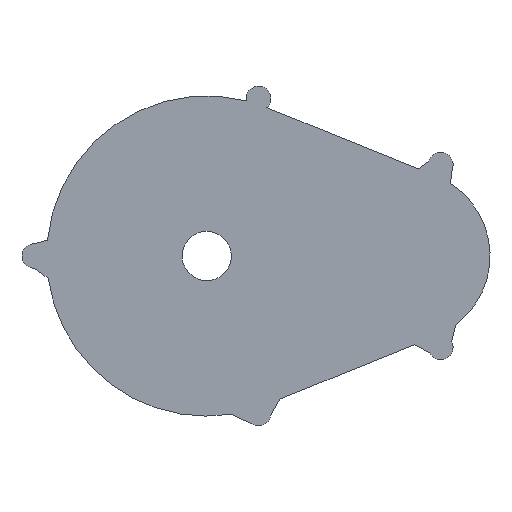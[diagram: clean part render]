
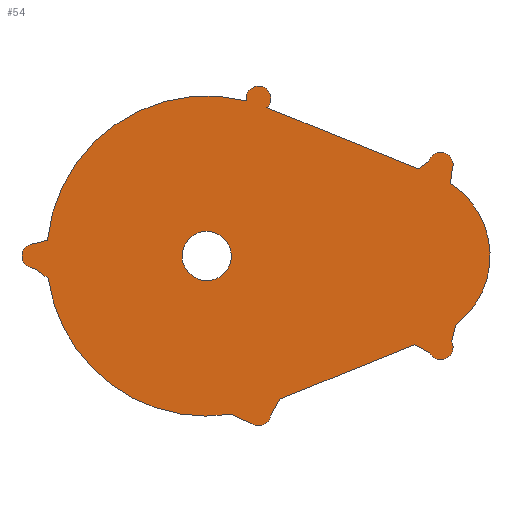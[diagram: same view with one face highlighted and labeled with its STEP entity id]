
A CAD part, front view. The second image highlights one B-rep face of the part: STEP entity #54.
In plain terms, the highlighted planar face has unit normal (0, -1, 0).
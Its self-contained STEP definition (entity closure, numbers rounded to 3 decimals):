
#54=ADVANCED_FACE('',(#103,#105),#107,.T.);
#103=FACE_BOUND('',#104,.T.);
#104=EDGE_LOOP('',(#351,#352,#353,#354,#355,#356,#357,#358,#359,#360,#361,#362,#363,
#364,#365,#366,#367,#368));
#105=FACE_BOUND('',#106,.T.);
#106=EDGE_LOOP('',(#369));
#107=PLANE('',#108);
#108=AXIS2_PLACEMENT_3D('',#109,#110,#111);
#109=CARTESIAN_POINT('',(0.,-73.,0.));
#110=DIRECTION('',(0.,-1.,0.));
#111=DIRECTION('',(0.,0.,-1.));
#351=ORIENTED_EDGE('',*,*,#483,.T.);
#352=ORIENTED_EDGE('',*,*,#484,.T.);
#353=ORIENTED_EDGE('',*,*,#485,.T.);
#354=ORIENTED_EDGE('',*,*,#486,.T.);
#355=ORIENTED_EDGE('',*,*,#487,.T.);
#356=ORIENTED_EDGE('',*,*,#488,.T.);
#357=ORIENTED_EDGE('',*,*,#489,.T.);
#358=ORIENTED_EDGE('',*,*,#490,.T.);
#359=ORIENTED_EDGE('',*,*,#491,.T.);
#360=ORIENTED_EDGE('',*,*,#492,.T.);
#361=ORIENTED_EDGE('',*,*,#493,.T.);
#362=ORIENTED_EDGE('',*,*,#494,.T.);
#363=ORIENTED_EDGE('',*,*,#495,.T.);
#364=ORIENTED_EDGE('',*,*,#496,.T.);
#365=ORIENTED_EDGE('',*,*,#497,.T.);
#366=ORIENTED_EDGE('',*,*,#498,.T.);
#367=ORIENTED_EDGE('',*,*,#499,.T.);
#368=ORIENTED_EDGE('',*,*,#500,.T.);
#369=ORIENTED_EDGE('',*,*,#501,.T.);
#483=EDGE_CURVE('',#573,#574,#575,.T.);
#484=EDGE_CURVE('',#574,#576,#577,.T.);
#485=EDGE_CURVE('',#576,#578,#579,.T.);
#486=EDGE_CURVE('',#578,#580,#581,.T.);
#487=EDGE_CURVE('',#580,#582,#583,.T.);
#488=EDGE_CURVE('',#582,#584,#585,.T.);
#489=EDGE_CURVE('',#584,#586,#587,.T.);
#490=EDGE_CURVE('',#586,#588,#589,.T.);
#491=EDGE_CURVE('',#588,#590,#591,.T.);
#492=EDGE_CURVE('',#590,#592,#593,.T.);
#493=EDGE_CURVE('',#592,#594,#595,.T.);
#494=EDGE_CURVE('',#594,#596,#597,.T.);
#495=EDGE_CURVE('',#596,#598,#599,.T.);
#496=EDGE_CURVE('',#598,#600,#601,.T.);
#497=EDGE_CURVE('',#600,#602,#603,.T.);
#498=EDGE_CURVE('',#602,#604,#605,.T.);
#499=EDGE_CURVE('',#604,#606,#607,.T.);
#500=EDGE_CURVE('',#606,#573,#608,.T.);
#501=EDGE_CURVE('',#609,#609,#610,.F.);
#573=VERTEX_POINT('',#749);
#574=VERTEX_POINT('',#750);
#575=CIRCLE('',#751,65.);
#576=VERTEX_POINT('',#755);
#577=LINE('',#756,#757);
#578=VERTEX_POINT('',#759);
#579=CIRCLE('',#760,5.);
#580=VERTEX_POINT('',#764);
#581=LINE('',#765,#766);
#582=VERTEX_POINT('',#768);
#583=CIRCLE('',#769,65.);
#584=VERTEX_POINT('',#773);
#585=LINE('',#774,#775);
#586=VERTEX_POINT('',#777);
#587=CIRCLE('',#778,5.);
#588=VERTEX_POINT('',#782);
#589=LINE('',#783,#784);
#590=VERTEX_POINT('',#786);
#591=LINE('',#787,#788);
#592=VERTEX_POINT('',#790);
#593=LINE('',#791,#792);
#594=VERTEX_POINT('',#794);
#595=CIRCLE('',#795,5.);
#596=VERTEX_POINT('',#799);
#597=LINE('',#800,#801);
#598=VERTEX_POINT('',#803);
#599=CIRCLE('',#804,35.);
#600=VERTEX_POINT('',#808);
#601=LINE('',#809,#810);
#602=VERTEX_POINT('',#812);
#603=CIRCLE('',#813,5.);
#604=VERTEX_POINT('',#817);
#605=LINE('',#818,#819);
#606=VERTEX_POINT('',#821);
#607=LINE('',#822,#823);
#608=CIRCLE('',#825,5.);
#609=VERTEX_POINT('',#829);
#610=CIRCLE('',#830,10.);
#749=CARTESIAN_POINT('',(-63.926,-73.,62.981));
#750=CARTESIAN_POINT('',(-144.679,-73.,6.456));
#751=AXIS2_PLACEMENT_3D('',#752,#753,#754);
#752=CARTESIAN_POINT('',(-80.,-73.,0.));
#753=DIRECTION('',(0.,-1.,0.));
#754=DIRECTION('',(0.247,0.,0.969));
#755=CARTESIAN_POINT('',(-150.,-73.,5.));
#756=CARTESIAN_POINT('',(-144.679,-73.,6.456));
#757=VECTOR('',#758,1.);
#758=DIRECTION('',(-0.965,0.,-0.264));
#759=CARTESIAN_POINT('',(-150.,-73.,-5.));
#760=AXIS2_PLACEMENT_3D('',#761,#762,#763);
#761=CARTESIAN_POINT('',(-150.,-73.,0.));
#762=DIRECTION('',(0.,-1.,0.));
#763=DIRECTION('',(0.,0.,1.));
#764=CARTESIAN_POINT('',(-144.363,-73.,-9.079));
#765=CARTESIAN_POINT('',(-150.,-73.,-5.));
#766=VECTOR('',#767,1.);
#767=DIRECTION('',(0.81,0.,-0.586));
#768=CARTESIAN_POINT('',(-70.098,-73.,-64.241));
#769=AXIS2_PLACEMENT_3D('',#770,#771,#772);
#770=CARTESIAN_POINT('',(-80.,-73.,0.));
#771=DIRECTION('',(0.,-1.,0.));
#772=DIRECTION('',(-0.99,0.,-0.14));
#773=CARTESIAN_POINT('',(-61.745,-73.,-68.12));
#774=CARTESIAN_POINT('',(-70.098,-73.,-64.241));
#775=VECTOR('',#776,1.);
#776=DIRECTION('',(0.907,0.,-0.421));
#777=CARTESIAN_POINT('',(-54.087,-73.,-64.767));
#778=AXIS2_PLACEMENT_3D('',#779,#780,#781);
#779=CARTESIAN_POINT('',(-59.017,-73.,-63.931));
#780=DIRECTION('',(0.,-1.,0.));
#781=DIRECTION('',(-0.546,0.,-0.838));
#782=CARTESIAN_POINT('',(-50.402,-73.,-58.144));
#783=CARTESIAN_POINT('',(-54.087,-73.,-64.767));
#784=VECTOR('',#785,1.);
#785=DIRECTION('',(0.486,0.,0.874));
#786=CARTESIAN_POINT('',(4.369,-73.,-35.988));
#787=CARTESIAN_POINT('',(-50.402,-73.,-58.144));
#788=VECTOR('',#789,1.);
#789=DIRECTION('',(0.927,0.,0.375));
#790=CARTESIAN_POINT('',(10.489,-73.,-39.238));
#791=CARTESIAN_POINT('',(4.369,-73.,-35.988));
#792=VECTOR('',#793,1.);
#793=DIRECTION('',(0.883,0.,-0.469));
#794=CARTESIAN_POINT('',(19.425,-73.,-34.754));
#795=AXIS2_PLACEMENT_3D('',#796,#797,#798);
#796=CARTESIAN_POINT('',(15.,-73.,-37.081));
#797=DIRECTION('',(0.,-1.,0.));
#798=DIRECTION('',(-0.902,0.,-0.431));
#799=CARTESIAN_POINT('',(20.979,-73.,-28.015));
#800=CARTESIAN_POINT('',(19.425,-73.,-34.754));
#801=VECTOR('',#802,1.);
#802=DIRECTION('',(0.225,0.,0.974));
#803=CARTESIAN_POINT('',(18.884,-73.,29.468));
#804=AXIS2_PLACEMENT_3D('',#805,#806,#807);
#805=CARTESIAN_POINT('',(0.,-73.,0.));
#806=DIRECTION('',(0.,-1.,0.));
#807=DIRECTION('',(0.599,0.,-0.8));
#808=CARTESIAN_POINT('',(19.635,-73.,35.206));
#809=CARTESIAN_POINT('',(18.884,-73.,29.468));
#810=VECTOR('',#811,1.);
#811=DIRECTION('',(0.13,0.,0.992));
#812=CARTESIAN_POINT('',(10.176,-73.,38.397));
#813=AXIS2_PLACEMENT_3D('',#814,#815,#816);
#814=CARTESIAN_POINT('',(15.,-73.,37.081));
#815=DIRECTION('',(0.,-1.,0.));
#816=DIRECTION('',(0.927,0.,-0.375));
#817=CARTESIAN_POINT('',(5.984,-73.,35.335));
#818=CARTESIAN_POINT('',(10.176,-73.,38.397));
#819=VECTOR('',#820,1.);
#820=DIRECTION('',(-0.807,0.,-0.59));
#821=CARTESIAN_POINT('',(-55.625,-73.,60.257));
#822=CARTESIAN_POINT('',(5.984,-73.,35.335));
#823=VECTOR('',#824,1.);
#824=DIRECTION('',(-0.927,0.,0.375));
#825=AXIS2_PLACEMENT_3D('',#826,#827,#828);
#826=CARTESIAN_POINT('',(-59.017,-73.,63.931));
#827=DIRECTION('',(0.,-1.,0.));
#828=DIRECTION('',(0.678,0.,-0.735));
#829=CARTESIAN_POINT('',(-88.923,-73.,-4.515));
#830=AXIS2_PLACEMENT_3D('',#831,#832,#833);
#831=CARTESIAN_POINT('',(-80.,-73.,0.));
#832=DIRECTION('',(0.,-1.,0.));
#833=DIRECTION('',(-0.892,0.,-0.452));
